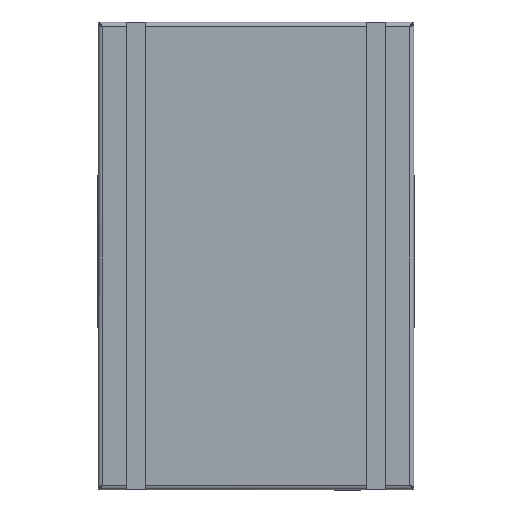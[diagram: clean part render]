
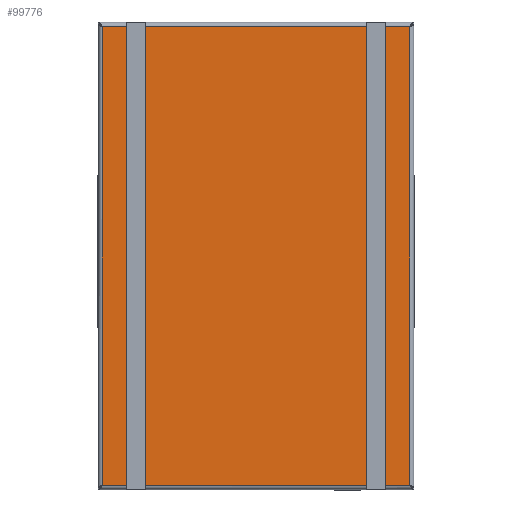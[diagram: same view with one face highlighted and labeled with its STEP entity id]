
A CAD part, top view. The second image highlights one B-rep face of the part: STEP entity #99776.
In plain terms, the highlighted planar face has unit normal (0, 0, 1).
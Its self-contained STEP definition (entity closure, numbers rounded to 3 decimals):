
#7587 = VERTEX_POINT ( 'NONE', #21660 ) ;
#14325 = VECTOR ( 'NONE', #106149, 39.37 ) ;
#14484 = DIRECTION ( 'NONE',  ( 0., 1., 0. ) ) ;
#17948 = CARTESIAN_POINT ( 'NONE',  ( -4.03, 6.015, 0. ) ) ;
#18552 = CARTESIAN_POINT ( 'NONE',  ( 4.03, 6.015, 0. ) ) ;
#19043 = DIRECTION ( 'NONE',  ( -1., 0., 0. ) ) ;
#21660 = CARTESIAN_POINT ( 'NONE',  ( -4.03, -6.015, 0. ) ) ;
#21866 = DIRECTION ( 'NONE',  ( 0., -1., 0. ) ) ;
#23736 = EDGE_CURVE ( 'NONE', #7587, #69326, #37381, .T. ) ;
#33389 = PLANE ( 'NONE',  #74522 ) ;
#34148 = CARTESIAN_POINT ( 'NONE',  ( 0., 0., 0. ) ) ;
#35864 = VECTOR ( 'NONE', #19043, 39.37 ) ;
#37181 = VERTEX_POINT ( 'NONE', #17948 ) ;
#37381 = LINE ( 'NONE', #97486, #14325 ) ;
#42845 = DIRECTION ( 'NONE',  ( 0., 0., -1. ) ) ;
#43048 = EDGE_CURVE ( 'NONE', #69326, #81907, #58988, .T. ) ;
#44151 = LINE ( 'NONE', #99358, #64428 ) ;
#46901 = CARTESIAN_POINT ( 'NONE',  ( 4.03, -6.015, 0. ) ) ;
#47449 = EDGE_LOOP ( 'NONE', ( #71101, #96638, #107279, #65614 ) ) ;
#58988 = LINE ( 'NONE', #83338, #102214 ) ;
#64428 = VECTOR ( 'NONE', #21866, 39.37 ) ;
#65614 = ORIENTED_EDGE ( 'NONE', *, *, #98386, .T. ) ;
#69326 = VERTEX_POINT ( 'NONE', #46901 ) ;
#70876 = CARTESIAN_POINT ( 'NONE',  ( 4.03, 6.015, 0. ) ) ;
#71101 = ORIENTED_EDGE ( 'NONE', *, *, #23736, .T. ) ;
#74522 = AXIS2_PLACEMENT_3D ( 'NONE', #34148, #42845, #103262 ) ;
#77797 = FACE_OUTER_BOUND ( 'NONE', #47449, .T. ) ;
#79215 = EDGE_CURVE ( 'NONE', #81907, #37181, #104758, .T. ) ;
#81907 = VERTEX_POINT ( 'NONE', #18552 ) ;
#83338 = CARTESIAN_POINT ( 'NONE',  ( 4.03, -6.015, 0. ) ) ;
#96638 = ORIENTED_EDGE ( 'NONE', *, *, #43048, .T. ) ;
#97486 = CARTESIAN_POINT ( 'NONE',  ( -4.03, -6.015, 0. ) ) ;
#98386 = EDGE_CURVE ( 'NONE', #37181, #7587, #44151, .T. ) ;
#99358 = CARTESIAN_POINT ( 'NONE',  ( -4.03, 6.015, 0. ) ) ;
#99776 = ADVANCED_FACE ( 'NONE', ( #77797 ), #33389, .F. ) ;
#102214 = VECTOR ( 'NONE', #14484, 39.37 ) ;
#103262 = DIRECTION ( 'NONE',  ( -1., 0., 0. ) ) ;
#104758 = LINE ( 'NONE', #70876, #35864 ) ;
#106149 = DIRECTION ( 'NONE',  ( 1., 0., 0. ) ) ;
#107279 = ORIENTED_EDGE ( 'NONE', *, *, #79215, .T. ) ;
